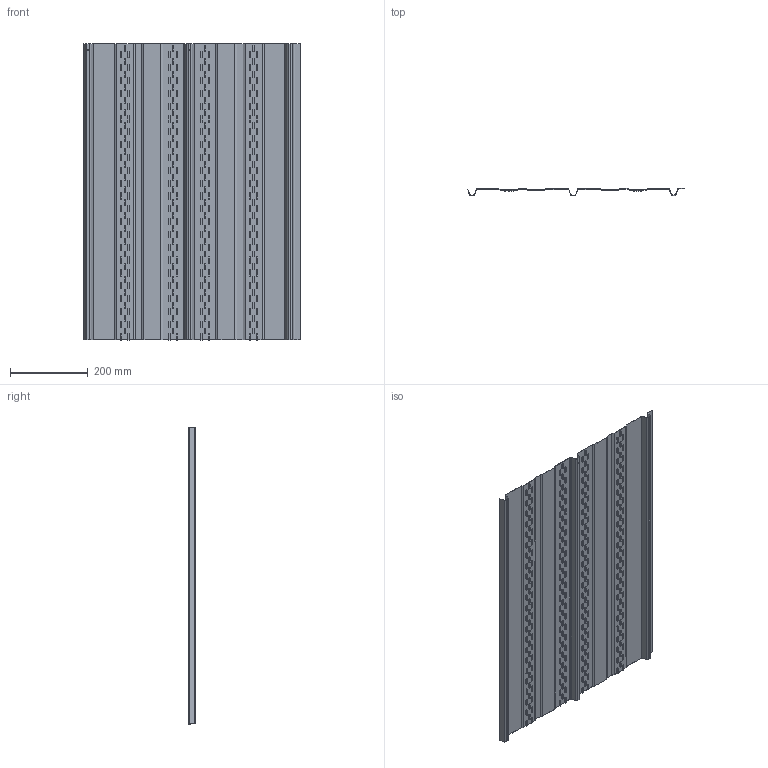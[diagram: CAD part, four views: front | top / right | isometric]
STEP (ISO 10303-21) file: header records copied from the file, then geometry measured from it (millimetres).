
FILE_DESCRIPTION (( 'STEP AP203' ), '1' );
FILE_NAME ('MS750 VENTILATED.STEP', '2018-06-14T17:09:13', ( 'Michael Moliner' ), ( '' ), 'SwSTEP 2.0', 'SolidWorks 2018', '' );
FILE_SCHEMA (( 'CONFIG_CONTROL_DESIGN' ));
Length unit declared in the file: inch
Products named in the file (2): MS750 VENTILATED
Bounding box: 558.01 x 18.29 x 762.79 mm (x, y, z)
Volume: 248475.2 mm3; surface area: 976560 mm2
Topology: 1 solids, 1 shells, 2875 faces, 9195 edges, 5762 vertices
Faces by surface type: plane 2804, cylinder 71
Entity records: 100316 total; most frequent: ORIENTED_EDGE 18390, CARTESIAN_POINT 17834, DIRECTION 15115, EDGE_CURVE 9195, VECTOR 9029, LINE 9029, VERTEX_POINT 5762, EDGE_LOOP 3423
